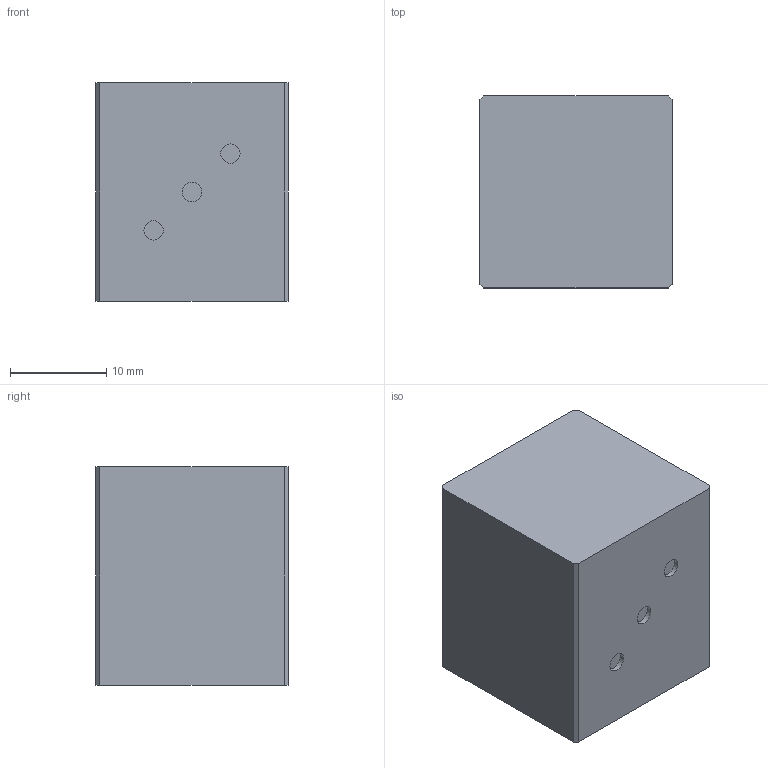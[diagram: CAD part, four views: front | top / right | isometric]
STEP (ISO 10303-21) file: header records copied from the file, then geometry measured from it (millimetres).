
FILE_DESCRIPTION(('Open CASCADE Model'),'2;1');
FILE_NAME('Open CASCADE Shape Model','2026-08-23T08:04:37',('Author'),( 'Open CASCADE'),'Open CASCADE STEP processor 7.9','Open CASCADE 7.9' ,'Unknown');
FILE_SCHEMA(('AUTOMOTIVE_DESIGN { 1 0 10303 214 1 1 1 1 }'));
Length unit declared in the file: millimetre
Products named in the file (2): =>[0:1:1:2]; COMPOUND
Assembly tree (1 placements, depth 2):
  =>[0:1:1:2]
    COMPOUND
Bounding box: 20 x 20 x 22.75 mm (x, y, z)
Volume: 9088 mm3; surface area: 2607.5 mm2
Topology: 1 solids, 1 shells, 16 faces, 33 edges, 22 vertices
Faces by surface type: plane 13, cylinder 3
Full cylindrical faces by diameter (mm): 2 x3
Entity records: 905 total; most frequent: CARTESIAN_POINT 157, DIRECTION 138, LINE 87, VECTOR 87, ORIENTED_EDGE 66, PCURVE 66, DEFINITIONAL_REPRESENTATION 66, EDGE_CURVE 33
